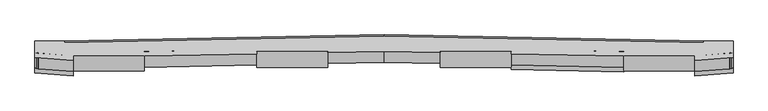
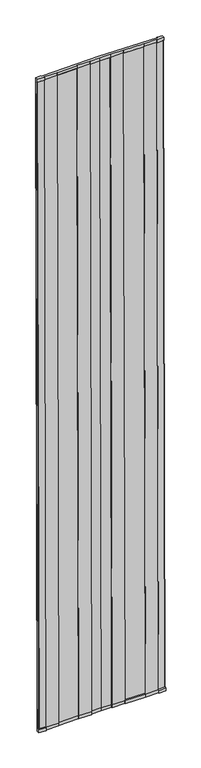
"""IFC4 building model written with IfcOpenShell, lengths in millimetres: proxy geometry, Slab.sat."""

from ifc_helpers import new_model, si_unit, origin, place, context, project, spatial, faceted_brep, source, transform, mapped, element, save


def generic_models_9e09cbef(model_context):
    return source(origin(), model_context, "Body", "Brep", [
        faceted_brep([(-5975.35, -314.7934287, -76.1993945), (-5994.4, -295.7434287, -76.1993945), (-5994.4, -552.7914336, -64338.2006055), (-5975.35, -571.8414336, -64338.2006055), (-5994.4, -313.2327976, -76.1993945), (-5994.4, -570.2808024, -64338.2006055), (5994.4, -295.7434287, -76.1993945), (5975.35, -314.7934287, -76.1993945), (5975.3499962, -571.8414373, -64338.2006055), (5994.4, -552.7914336, -64338.2006055), (5994.4, -313.2327976, -76.1993945), (5994.4, -570.2808024, -64338.2006055), (5949.8798973, -316.8800214, -76.1993945), (5949.8798983, -573.9280261, -64338.2006055), (-5939.3940013, -317.7390558, -76.1993945), (-5943.6, -304.6519414, -76.1993945), (-5943.6, -561.6999462, -64338.2006055), (-5939.3940013, -574.7870607, -64338.2006055), (-5949.8798971, -316.880019, -76.1993945), (-5949.8798983, -573.9280261, -64338.2006055), (-5334.0, -624.3828024, -64338.2006055), (-5334.0, -367.3347976, -76.1993945), (5943.6, -304.6519414, -76.1993945), (5943.6, -561.6999462, -64338.2006055), (5939.3940013, -317.7390558, -76.1993945), (5939.3940005, -574.7870632, -64338.2006055), (5334.0, -367.3347976, -76.1993945), (5334.0, -624.3828024, -64338.2006055), (0.0, -283.0576, -64693.8), (0.0, -257.6576, -64668.4), (5486.4, -367.3856, -64668.4), (5486.4, -392.7856, -64693.8), (-5486.4, -392.7856, -64693.8), (-5486.4, -367.3856, -64668.4), (5486.4, -367.3856, -64693.8), (-5486.4, -367.3856, -64693.8), (-5486.4, -367.3856, -64414.4), (0.0, -257.6576, -64414.4), (5994.4, -367.3856, -64693.8), (5994.4, -647.0408764, -64693.8), (5334.0, -701.1428764, -64693.8), (5334.0, -611.9876, -64693.8), (4114.8, -611.9876, -64693.8), (4114.8, -625.7607443, -64693.8), (2184.4, -587.1527443, -64693.8), (2184.4, -548.9956, -64693.8), (965.2, -548.9956, -64693.8), (965.2, -486.5535058, -64693.8), (0.0, -467.2495058, -64693.8), (-965.2, -486.5535058, -64693.8), (-965.2, -548.9956, -64693.8), (-2184.4, -548.9956, -64693.8), (-2184.4, -510.9375058, -64693.8), (-4114.8, -549.5455058, -64693.8), (-4114.8, -611.9876, -64693.8), (-5334.0, -611.9876, -64693.8), (-5334.0, -701.1428764, -64693.8), (-5994.4, -647.0408764, -64693.8), (-5994.4, -367.3856, -64693.8), (0.0, 0.0, 254.0), (0.0, -25.4, 279.4), (5486.4, -135.128, 279.4), (5486.4, -109.728, 254.0), (-5486.4, -109.728, 254.0), (-5486.4, -135.128, 279.4), (5486.4, -109.728, 279.4), (-5486.4, -109.728, 279.4), (0.0, 0.0, 0.0), (-5486.4, -109.728, 0.0), (5486.4, -109.728, 0.0), (-5334.0, -701.1428764, -64414.4), (-5994.4, -647.0408764, -64414.4), (2184.4, -510.6327082, -64338.2006093), (2184.4, -548.8430032, -64376.2507899), (2184.4, -587.1527443, -64414.4), (4114.8, -625.7607443, -64414.4), (4114.8, -611.9325189, -64400.6297196), (4114.8, -549.2407082, -64338.2006093), (2184.4, -253.5847034, -76.1993907), (2184.4, -291.4905968, -38.1492101), (4114.8, -292.1927034, -76.1993907), (4114.8, -354.3850811, -13.7702804), (5994.4, -647.0408764, -64414.4), (5334.0, -701.1428764, -64414.4), (-5994.4, -386.4356, -64414.4), (-5975.35, -367.3856, -64414.4), (-5994.4, -367.3856, -64414.4), (5975.35, -367.3856, -64414.4), (5994.4, -386.4356, -64414.4), (5994.4, -367.3856, -64414.4), (-4114.8, -611.9876, -64414.4), (-5334.0, -611.9876, -64414.4), (-2184.4, -510.9375058, -64414.4), (-4114.8, -549.5455058, -64414.4), (-965.2, -548.9956, -64414.4), (-2184.4, -548.9956, -64414.4), (0.0, -467.2495058, -64414.4), (-965.2, -486.5535058, -64414.4), (965.2, -486.5535058, -64414.4), (2184.4, -548.9956, -64414.4), (965.2, -548.9956, -64414.4), (4114.8, -611.9876, -64414.4), (5334.0, -611.9876, -64414.4), (5486.4, -367.3856, -64414.4), (-5994.4, -389.3832764, 0.0), (-5334.0, -443.4852764, 0.0), (-2184.4, -253.5847034, -76.1993907), (-2184.4, -291.4905968, -38.1492101), (-2184.4, -329.4951443, 0.0), (-4114.8, -368.1031443, 0.0), (-4114.8, -354.3850811, -13.7702804), (-4114.8, -292.1927034, -76.1993907), (0.0, -285.8071443, 0.0), (-965.2, -305.1111443, 0.0), (-965.2, -291.3930811, -13.7702804), (-965.2, -229.2007034, -76.1993907), (0.0, -209.8967034, -76.1993907), (965.2, -229.2007034, -76.1993907), (965.2, -291.3930811, -13.7702804), (965.2, -305.1111443, 0.0), (4114.8, -368.1031443, 0.0), (2184.4, -329.4951443, 0.0), (5334.0, -443.4852764, 0.0), (5994.4, -389.3832764, 0.0), (-5975.35, -109.728, 0.0), (-5994.4, -128.778, 0.0), (-5994.4, -109.728, 0.0), (5994.4, -128.778, 0.0), (5975.35, -109.728, 0.0), (5994.4, -109.728, 0.0), (-5334.0, -443.4852764, 279.4), (-5994.4, -389.3832764, 279.4), (-5994.4, -109.728, 279.4), (5994.4, -109.728, 279.4), (5994.4, -389.3832764, 279.4), (5334.0, -443.4852764, 279.4), (4114.8, -354.33, 0.0), (5334.0, -354.33, 0.0), (5334.0, -354.33, 279.4), (4114.8, -354.33, 279.4), (4114.8, -368.1031443, 279.4), (2184.4, -329.4951443, 279.4), (2184.4, -291.338, 279.4), (2184.4, -291.338, 0.0), (965.2, -291.338, 0.0), (965.2, -291.338, 279.4), (965.2, -305.1111443, 279.4), (0.0, -285.8071443, 279.4), (-965.2, -305.1111443, 279.4), (-965.2, -291.338, 279.4), (-965.2, -291.338, 0.0), (-2184.4, -291.338, 0.0), (-2184.4, -291.338, 279.4), (-2184.4, -329.4951443, 279.4), (-4114.8, -368.1031443, 279.4), (-4114.8, -354.33, 279.4), (-4114.8, -354.33, 0.0), (-5334.0, -354.33, 0.0), (-5334.0, -354.33, 279.4)], [[[0, 1, 2, 3]], [[0, 4, 1]], [[5, 3, 2]], [[6, 7, 8, 9]], [[10, 7, 6]], [[8, 11, 9]], [[8, 7, 12, 13]], [[14, 15, 16, 17]], [[15, 18, 19, 16]], [[18, 15, 14]], [[16, 19, 17]], [[14, 17, 20, 21]], [[0, 3, 19, 18]], [[12, 22, 23, 13]], [[22, 24, 25, 23]], [[12, 24, 22]], [[25, 13, 23]], [[25, 24, 26, 27]], [[28, 29, 30, 31]], [[32, 33, 29, 28]], [[30, 34, 31]], [[35, 33, 32]], [[29, 33, 36, 37]], [[35, 32, 28, 31, 34, 38, 39, 40, 41, 42, 43, 44, 45, 46, 47, 48, 49, 50, 51, 52, 53, 54, 55, 56, 57, 58]], [[59, 60, 61, 62]], [[63, 64, 60, 59]], [[65, 62, 61]], [[63, 66, 64]], [[63, 59, 67, 68]], [[59, 62, 69, 67]], [[70, 20, 17, 19, 3, 5, 71]], [[72, 73, 74, 75, 76, 77]], [[73, 72, 78, 79]], [[72, 77, 80, 78]], [[77, 76, 81, 80]], [[82, 11, 8, 13, 25, 27, 83]], [[84, 85, 86]], [[87, 88, 89]], [[90, 91, 55, 54]], [[92, 93, 53, 52]], [[94, 95, 51, 50]], [[96, 97, 49, 48]], [[98, 96, 48, 47]], [[99, 100, 46, 45]], [[99, 45, 44, 74, 73]], [[75, 74, 44, 43]], [[75, 43, 42, 101, 76]], [[102, 101, 42, 41]], [[82, 83, 40, 39]], [[103, 87, 89, 38, 34, 30]], [[30, 29, 37, 103]], [[86, 85, 36, 33, 35, 58]], [[70, 71, 57, 56]], [[104, 4, 0, 18, 14, 21, 105]], [[106, 107, 108, 109, 110, 111]], [[107, 106, 92, 52, 51, 95]], [[106, 111, 93, 92]], [[111, 110, 90, 54, 53, 93]], [[112, 113, 114, 115, 116]], [[116, 117, 118, 119, 112]], [[115, 114, 94, 50, 49, 97]], [[80, 81, 120, 121, 79, 78]], [[122, 26, 24, 12, 7, 10, 123]], [[124, 125, 126]], [[127, 128, 129]], [[104, 105, 130, 131]], [[68, 124, 126, 132, 66, 63]], [[129, 128, 69, 62, 65, 133]], [[122, 123, 134, 135]], [[136, 137, 138, 139]], [[136, 139, 140, 120, 81]], [[121, 120, 140, 141]], [[121, 141, 142, 143, 79]], [[144, 143, 142, 145]], [[144, 145, 146, 119, 118]], [[112, 119, 146, 147]], [[113, 112, 147, 148]], [[113, 148, 149, 150, 114]], [[151, 150, 149, 152]], [[151, 152, 153, 108, 107]], [[109, 108, 153, 154]], [[109, 154, 155, 156, 110]], [[157, 156, 155, 158]], [[64, 66, 132, 131, 130, 158, 155, 154, 153, 152, 149, 148, 147, 146, 145, 142, 141, 140, 139, 138, 135, 134, 133, 65, 61, 60]], [[125, 124, 85, 84]], [[1, 4, 104, 131, 132, 126, 125, 84, 86, 58, 57, 71, 5, 2]], [[21, 20, 70, 56, 55, 91, 157, 158, 130, 105]], [[156, 157, 91, 90, 110]], [[150, 151, 107, 95, 94, 114]], [[116, 115, 97, 96]], [[117, 116, 96, 98]], [[118, 117, 98, 47, 46, 100]], [[143, 144, 118, 100, 99, 73, 79]], [[137, 136, 81, 76, 101, 102]], [[137, 102, 41, 40, 83, 27, 26, 122, 135, 138]], [[9, 11, 82, 39, 38, 89, 88, 127, 129, 133, 134, 123, 10, 6]], [[128, 127, 88, 87]], [[69, 128, 87, 103]], [[67, 69, 103, 37]], [[68, 67, 37, 36]], [[124, 68, 36, 85]]]),
    ])


if __name__ == "__main__":
    model = new_model("IFC4")
    model_context = context("Model", 3, world=origin())
    ifc_project = project(units=[si_unit("LENGTHUNIT", "METRE", prefix="MILLI")], contexts=[model_context])
    site = spatial("IfcSite", under=ifc_project)
    building = spatial("IfcBuilding", under=site)
    placement = place(None, origin())
    generic_models_shape = generic_models_9e09cbef(model_context)
    element("IfcBuildingElementProxy", 1, Name="Slab.sat", ObjectType="Slab.sat", at=placement, inside=building, context=model_context, shape_type="MappedRepresentation", body=[
        mapped(generic_models_shape, transform((0.0, 0.0, 0.0), x_axis=(1.0, 0.0, 0.0), y_axis=(0.0, 1.0, 0.0), z_axis=(0.0, 0.0, 1.0))),
    ])
    save(model, "model.ifc")
